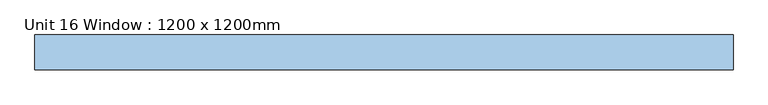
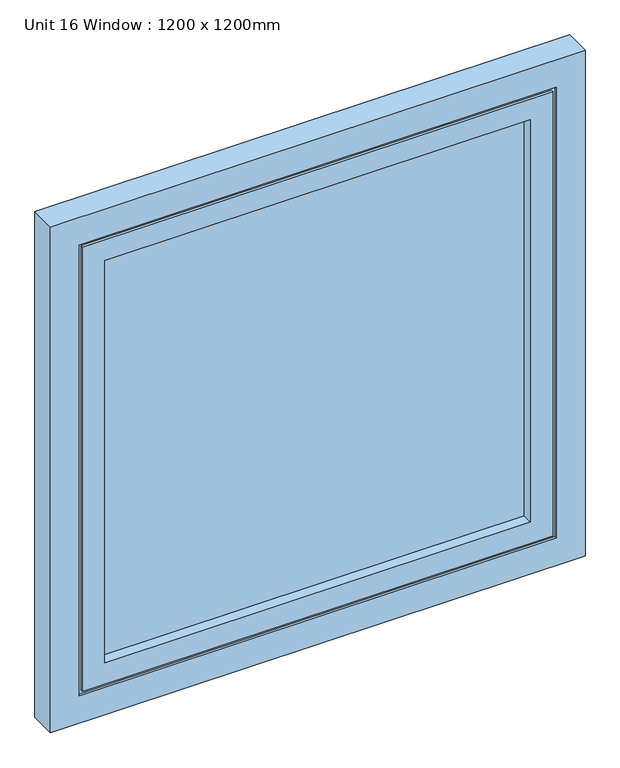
"""IFC4 building model written with IfcOpenShell, lengths in millimetres: window geometry, Unit 16 Window : 1200 x 1200mm."""

from ifc_helpers import new_model, si_unit, frame, origin, place, context, project, spatial, polyline, outline, extrude, faceted_brep, source, transform, mapped, element, save


def unit_16_window_1200_x_1200mm_45bc6662(model_context):
    return source(origin(), model_context, "Body", "SolidModel", [
        extrude(outline(polyline([(482.4540566, 5.0), (482.4540566, -5.0), (-482.4540566, -5.0), (-482.4540566, 5.0), (482.4540566, 5.0)])), frame((0.0, 0.0, 917.5459434), z_axis=(0.0, 0.0, 1.0), x_axis=(1.0, 0.0, 0.0)), (0.0, 0.0, 1.0), 964.9081133),
        faceted_brep([(-527.4540566, 30.0, 1927.4540566), (-527.4540566, 25.0, 1927.4540566), (527.4540566, 25.0, 1927.4540566), (527.4540566, 30.0, 1927.4540566), (-477.4540566, 5.0, 1877.4540566), (-477.4540566, 30.0, 1877.4540566), (477.4540566, 30.0, 1877.4540566), (477.4540566, 5.0, 1877.4540566), (-482.4540566, -5.0, 1882.4540566), (-482.4540566, 5.0, 1882.4540566), (482.4540566, 5.0, 1882.4540566), (482.4540566, -5.0, 1882.4540566), (-477.4540566, -30.0, 1877.4540566), (-477.4540566, -5.0, 1877.4540566), (477.4540566, -5.0, 1877.4540566), (477.4540566, -30.0, 1877.4540566), (-527.4540566, -25.0, 1927.4540566), (-527.4540566, -30.0, 1927.4540566), (527.4540566, -30.0, 1927.4540566), (527.4540566, -25.0, 1927.4540566), (-534.8200453, 25.0, 1934.8200453), (-534.8200453, -25.0, 1934.8200453), (534.8200453, -25.0, 1934.8200453), (534.8200453, 25.0, 1934.8200453), (527.4540566, 25.0, 872.5459434), (527.4540566, 30.0, 872.5459434), (477.4540566, 30.0, 922.5459434), (477.4540566, 5.0, 922.5459434), (482.4540566, 5.0, 917.5459434), (482.4540566, -5.0, 917.5459434), (477.4540566, -5.0, 922.5459434), (477.4540566, -30.0, 922.5459434), (527.4540566, -30.0, 872.5459434), (527.4540566, -25.0, 872.5459434), (534.8200453, -25.0, 865.1799547), (534.8200453, 25.0, 865.1799547), (-527.4540566, 25.0, 872.5459434), (-527.4540566, 30.0, 872.5459434), (-477.4540566, 30.0, 922.5459434), (-477.4540566, 5.0, 922.5459434), (-482.4540566, 5.0, 917.5459434), (-482.4540566, -5.0, 917.5459434), (-477.4540566, -5.0, 922.5459434), (-477.4540566, -30.0, 922.5459434), (-527.4540566, -30.0, 872.5459434), (-527.4540566, -25.0, 872.5459434), (-534.8200453, -25.0, 865.1799547), (-534.8200453, 25.0, 865.1799547)], [[[0, 1, 2, 3]], [[4, 5, 6, 7]], [[8, 9, 10, 11]], [[12, 13, 14, 15]], [[16, 17, 18, 19]], [[20, 21, 22, 23]], [[3, 2, 24, 25]], [[7, 6, 26, 27]], [[11, 10, 28, 29]], [[15, 14, 30, 31]], [[19, 18, 32, 33]], [[23, 22, 34, 35]], [[25, 24, 36, 37]], [[27, 26, 38, 39]], [[29, 28, 40, 41]], [[31, 30, 42, 43]], [[33, 32, 44, 45]], [[35, 34, 46, 47]], [[37, 36, 1, 0]], [[3, 25, 37, 0], [5, 38, 26, 6]], [[39, 38, 5, 4]], [[9, 40, 28, 10], [7, 27, 39, 4]], [[41, 40, 9, 8]], [[11, 29, 41, 8], [13, 42, 30, 14]], [[43, 42, 13, 12]], [[17, 44, 32, 18], [15, 31, 43, 12]], [[45, 44, 17, 16]], [[21, 46, 34, 22], [19, 33, 45, 16]], [[47, 46, 21, 20]], [[23, 35, 47, 20], [1, 36, 24, 2]]]),
        extrude(outline(polyline([(2000.0, -600.0), (800.0, -600.0), (800.0, 600.0), (2000.0, 600.0), (2000.0, -600.0)]), holes=[polyline([(1934.8200453, 534.8200453), (865.1799547, 534.8200453), (865.1799547, -534.8200453), (1934.8200453, -534.8200453), (1934.8200453, 534.8200453)])]), frame((0.0, -30.0, 0.0), z_axis=(0.0, 1.0, 0.0), x_axis=(0.0, 0.0, 1.0)), (0.0, 0.0, 1.0), 60.0),
    ])


if __name__ == "__main__":
    model = new_model("IFC4")
    model_context = context("Model", 3, world=origin())
    ifc_project = project(units=[si_unit("LENGTHUNIT", "METRE", prefix="MILLI")], contexts=[model_context])
    site = spatial("IfcSite", under=ifc_project)
    building = spatial("IfcBuilding", under=site)
    placement = place(None, origin())
    unit_16_window_1200_x_1200mm_shape = unit_16_window_1200_x_1200mm_45bc6662(model_context)
    element("IfcWindow", 1, ObjectType="Unit 16 Window : 1200 x 1200mm", at=placement, inside=building, context=model_context, shape_type="MappedRepresentation", body=[
        mapped(unit_16_window_1200_x_1200mm_shape, transform((0.0, 0.0, 0.0), x_axis=(1.0, 0.0, 0.0), y_axis=(0.0, 1.0, 0.0), z_axis=(0.0, 0.0, 1.0))),
    ])
    save(model, "model.ifc")
